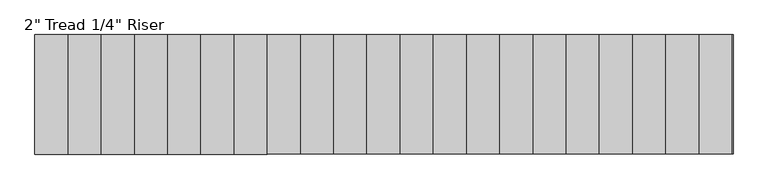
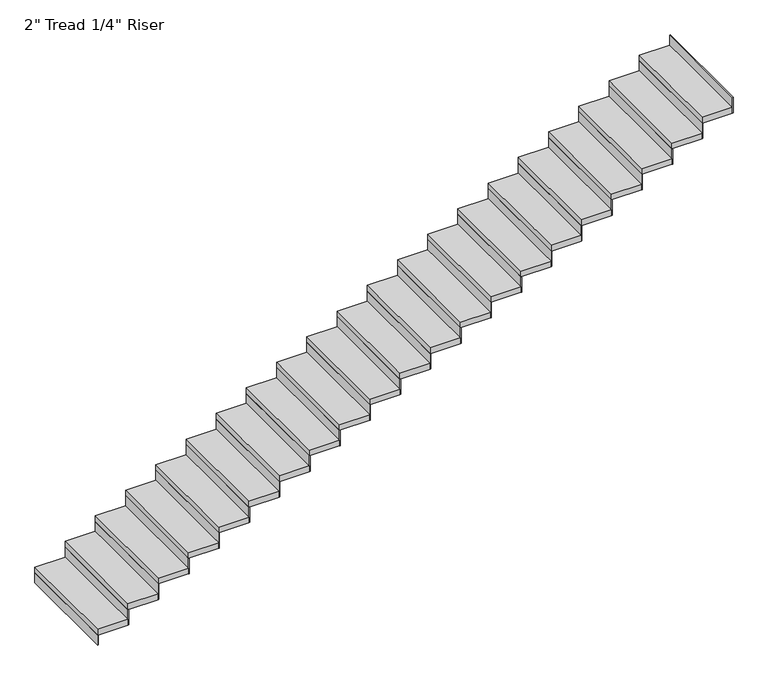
"""IFC4 building model written with IfcOpenShell, lengths in millimetres: stair flight geometry."""

from ifc_helpers import new_model, si_unit, frame, origin, origin_with_axes, place, context, project, spatial, polyline, outline, extrude, source, transform, mapped, element, save


def stair_flight_4fed3eda(model_context):
    return source(origin(), model_context, "Body", "SweptSolid", [
        extrude(outline(polyline([(-14491.9069957, -35593.481782), (-14498.2569957, -35593.481782), (-14498.2569957, -34679.081782), (-14491.9069957, -34679.081782), (-14491.9069957, -35593.481782)])), origin_with_axes(), (0.0, 0.0, 1.0), 87.7454545),
        extrude(outline(polyline([(-14244.2569957, -34679.081782), (-14244.2569957, -35593.481782), (-14498.2569957, -35593.481782), (-14498.2569957, -34679.081782), (-14244.2569957, -34679.081782)])), frame((0.0, 0.0, 87.7454545), z_axis=(0.0, 0.0, 1.0), x_axis=(1.0, 0.0, 0.0)), (0.0, 0.0, 1.0), 50.8),
        extrude(outline(polyline([(-14237.9069957, -35593.481782), (-14244.2569957, -35593.481782), (-14244.2569957, -34679.081782), (-14237.9069957, -34679.081782), (-14237.9069957, -35593.481782)])), frame((0.0, 0.0, 87.7454545), z_axis=(0.0, 0.0, 1.0), x_axis=(1.0, 0.0, 0.0)), (0.0, 0.0, 1.0), 138.5454545),
        extrude(outline(polyline([(-13990.2569957, -34679.081782), (-13990.2569957, -35593.481782), (-14244.2569957, -35593.481782), (-14244.2569957, -34679.081782), (-13990.2569957, -34679.081782)])), frame((0.0, 0.0, 226.2909091), z_axis=(0.0, 0.0, 1.0), x_axis=(1.0, 0.0, 0.0)), (0.0, 0.0, 1.0), 50.8),
        extrude(outline(polyline([(-13983.9069957, -35593.481782), (-13990.2569957, -35593.481782), (-13990.2569957, -34679.081782), (-13983.9069957, -34679.081782), (-13983.9069957, -35593.481782)])), frame((0.0, 0.0, 226.2909091), z_axis=(0.0, 0.0, 1.0), x_axis=(1.0, 0.0, 0.0)), (0.0, 0.0, 1.0), 138.5454545),
        extrude(outline(polyline([(-13736.2569957, -34679.081782), (-13736.2569957, -35593.481782), (-13990.2569957, -35593.481782), (-13990.2569957, -34679.081782), (-13736.2569957, -34679.081782)])), frame((0.0, 0.0, 364.8363636), z_axis=(0.0, 0.0, 1.0), x_axis=(1.0, 0.0, 0.0)), (0.0, 0.0, 1.0), 50.8),
        extrude(outline(polyline([(-13729.9069957, -35593.481782), (-13736.2569957, -35593.481782), (-13736.2569957, -34679.081782), (-13729.9069957, -34679.081782), (-13729.9069957, -35593.481782)])), frame((0.0, 0.0, 364.8363636), z_axis=(0.0, 0.0, 1.0), x_axis=(1.0, 0.0, 0.0)), (0.0, 0.0, 1.0), 138.5454545),
        extrude(outline(polyline([(-13482.2569957, -34679.081782), (-13482.2569957, -35593.481782), (-13736.2569957, -35593.481782), (-13736.2569957, -34679.081782), (-13482.2569957, -34679.081782)])), frame((0.0, 0.0, 503.3818182), z_axis=(0.0, 0.0, 1.0), x_axis=(1.0, 0.0, 0.0)), (0.0, 0.0, 1.0), 50.8),
        extrude(outline(polyline([(-13475.9069957, -35593.481782), (-13482.2569957, -35593.481782), (-13482.2569957, -34679.081782), (-13475.9069957, -34679.081782), (-13475.9069957, -35593.481782)])), frame((0.0, 0.0, 503.3818182), z_axis=(0.0, 0.0, 1.0), x_axis=(1.0, 0.0, 0.0)), (0.0, 0.0, 1.0), 138.5454545),
        extrude(outline(polyline([(-13228.2569957, -34679.081782), (-13228.2569957, -35593.481782), (-13482.2569957, -35593.481782), (-13482.2569957, -34679.081782), (-13228.2569957, -34679.081782)])), frame((0.0, 0.0, 641.9272727), z_axis=(0.0, 0.0, 1.0), x_axis=(1.0, 0.0, 0.0)), (0.0, 0.0, 1.0), 50.8),
        extrude(outline(polyline([(-13221.9069957, -35593.481782), (-13228.2569957, -35593.481782), (-13228.2569957, -34679.081782), (-13221.9069957, -34679.081782), (-13221.9069957, -35593.481782)])), frame((0.0, 0.0, 641.9272727), z_axis=(0.0, 0.0, 1.0), x_axis=(1.0, 0.0, 0.0)), (0.0, 0.0, 1.0), 138.5454545),
        extrude(outline(polyline([(-12974.2569957, -34679.081782), (-12974.2569957, -35593.481782), (-13228.2569957, -35593.481782), (-13228.2569957, -34679.081782), (-12974.2569957, -34679.081782)])), frame((0.0, 0.0, 780.4727273), z_axis=(0.0, 0.0, 1.0), x_axis=(1.0, 0.0, 0.0)), (0.0, 0.0, 1.0), 50.8),
        extrude(outline(polyline([(-12967.9069957, -35593.481782), (-12974.2569957, -35593.481782), (-12974.2569957, -34679.081782), (-12967.9069957, -34679.081782), (-12967.9069957, -35593.481782)])), frame((0.0, 0.0, 780.4727273), z_axis=(0.0, 0.0, 1.0), x_axis=(1.0, 0.0, 0.0)), (0.0, 0.0, 1.0), 138.5454545),
        extrude(outline(polyline([(-12720.2569957, -34679.081782), (-12720.2569957, -35593.481782), (-12974.2569957, -35593.481782), (-12974.2569957, -34679.081782), (-12720.2569957, -34679.081782)])), frame((0.0, 0.0, 919.0181818), z_axis=(0.0, 0.0, 1.0), x_axis=(1.0, 0.0, 0.0)), (0.0, 0.0, 1.0), 50.8),
        extrude(outline(polyline([(-12713.9069957, -35593.481782), (-12720.2569957, -35593.481782), (-12720.2569957, -34679.081782), (-12713.9069957, -34679.081782), (-12713.9069957, -35593.481782)])), frame((0.0, 0.0, 919.0181818), z_axis=(0.0, 0.0, 1.0), x_axis=(1.0, 0.0, 0.0)), (0.0, 0.0, 1.0), 138.5454545),
        extrude(outline(polyline([(-12466.2569957, -34679.081782), (-12466.2569957, -35593.481782), (-12720.2569957, -35593.481782), (-12720.2569957, -34679.081782), (-12466.2569957, -34679.081782)])), frame((0.0, 0.0, 1057.5636364), z_axis=(0.0, 0.0, 1.0), x_axis=(1.0, 0.0, 0.0)), (0.0, 0.0, 1.0), 50.8),
        extrude(outline(polyline([(-12459.9069957, -35593.481782), (-12466.2569957, -35593.481782), (-12466.2569957, -34679.081782), (-12459.9069957, -34679.081782), (-12459.9069957, -35593.481782)])), frame((0.0, 0.0, 1057.5636364), z_axis=(0.0, 0.0, 1.0), x_axis=(1.0, 0.0, 0.0)), (0.0, 0.0, 1.0), 138.5454545),
        extrude(outline(polyline([(-12212.2569957, -34679.081782), (-12212.2569957, -35593.481782), (-12466.2569957, -35593.481782), (-12466.2569957, -34679.081782), (-12212.2569957, -34679.081782)])), frame((0.0, 0.0, 1196.1090909), z_axis=(0.0, 0.0, 1.0), x_axis=(1.0, 0.0, 0.0)), (0.0, 0.0, 1.0), 50.8),
        extrude(outline(polyline([(-12205.9069957, -35593.481782), (-12212.2569957, -35593.481782), (-12212.2569957, -34679.081782), (-12205.9069957, -34679.081782), (-12205.9069957, -35593.481782)])), frame((0.0, 0.0, 1196.1090909), z_axis=(0.0, 0.0, 1.0), x_axis=(1.0, 0.0, 0.0)), (0.0, 0.0, 1.0), 138.5454545),
        extrude(outline(polyline([(-11958.2569957, -34679.081782), (-11958.2569957, -35593.481782), (-12212.2569957, -35593.481782), (-12212.2569957, -34679.081782), (-11958.2569957, -34679.081782)])), frame((0.0, 0.0, 1334.6545455), z_axis=(0.0, 0.0, 1.0), x_axis=(1.0, 0.0, 0.0)), (0.0, 0.0, 1.0), 50.8),
        extrude(outline(polyline([(-11951.9069957, -35593.481782), (-11958.2569957, -35593.481782), (-11958.2569957, -34679.081782), (-11951.9069957, -34679.081782), (-11951.9069957, -35593.481782)])), frame((0.0, 0.0, 1334.6545455), z_axis=(0.0, 0.0, 1.0), x_axis=(1.0, 0.0, 0.0)), (0.0, 0.0, 1.0), 138.5454545),
        extrude(outline(polyline([(-11704.2569957, -34679.081782), (-11704.2569957, -35593.481782), (-11958.2569957, -35593.481782), (-11958.2569957, -34679.081782), (-11704.2569957, -34679.081782)])), frame((0.0, 0.0, 1473.2), z_axis=(0.0, 0.0, 1.0), x_axis=(1.0, 0.0, 0.0)), (0.0, 0.0, 1.0), 50.8),
        extrude(outline(polyline([(-11697.9069957, -35593.481782), (-11704.2569957, -35593.481782), (-11704.2569957, -34679.081782), (-11697.9069957, -34679.081782), (-11697.9069957, -35593.481782)])), frame((0.0, 0.0, 1473.2), z_axis=(0.0, 0.0, 1.0), x_axis=(1.0, 0.0, 0.0)), (0.0, 0.0, 1.0), 138.5454545),
        extrude(outline(polyline([(-11450.2569957, -34679.081782), (-11450.2569957, -35593.481782), (-11704.2569957, -35593.481782), (-11704.2569957, -34679.081782), (-11450.2569957, -34679.081782)])), frame((0.0, 0.0, 1611.7454545), z_axis=(0.0, 0.0, 1.0), x_axis=(1.0, 0.0, 0.0)), (0.0, 0.0, 1.0), 50.8),
        extrude(outline(polyline([(-11443.9069957, -35593.481782), (-11450.2569957, -35593.481782), (-11450.2569957, -34679.081782), (-11443.9069957, -34679.081782), (-11443.9069957, -35593.481782)])), frame((0.0, 0.0, 1611.7454545), z_axis=(0.0, 0.0, 1.0), x_axis=(1.0, 0.0, 0.0)), (0.0, 0.0, 1.0), 138.5454545),
        extrude(outline(polyline([(-11196.2569957, -34679.081782), (-11196.2569957, -35593.481782), (-11450.2569957, -35593.481782), (-11450.2569957, -34679.081782), (-11196.2569957, -34679.081782)])), frame((0.0, 0.0, 1750.2909091), z_axis=(0.0, 0.0, 1.0), x_axis=(1.0, 0.0, 0.0)), (0.0, 0.0, 1.0), 50.8),
        extrude(outline(polyline([(-11189.9069957, -35593.481782), (-11196.2569957, -35593.481782), (-11196.2569957, -34679.081782), (-11189.9069957, -34679.081782), (-11189.9069957, -35593.481782)])), frame((0.0, 0.0, 1750.2909091), z_axis=(0.0, 0.0, 1.0), x_axis=(1.0, 0.0, 0.0)), (0.0, 0.0, 1.0), 138.5454545),
        extrude(outline(polyline([(-10942.2569957, -34679.081782), (-10942.2569957, -35593.481782), (-11196.2569957, -35593.481782), (-11196.2569957, -34679.081782), (-10942.2569957, -34679.081782)])), frame((0.0, 0.0, 1888.8363636), z_axis=(0.0, 0.0, 1.0), x_axis=(1.0, 0.0, 0.0)), (0.0, 0.0, 1.0), 50.8),
        extrude(outline(polyline([(-10935.9069957, -35593.481782), (-10942.2569957, -35593.481782), (-10942.2569957, -34679.081782), (-10935.9069957, -34679.081782), (-10935.9069957, -35593.481782)])), frame((0.0, 0.0, 1888.8363636), z_axis=(0.0, 0.0, 1.0), x_axis=(1.0, 0.0, 0.0)), (0.0, 0.0, 1.0), 138.5454545),
        extrude(outline(polyline([(-10688.2569957, -34679.081782), (-10688.2569957, -35593.481782), (-10942.2569957, -35593.481782), (-10942.2569957, -34679.081782), (-10688.2569957, -34679.081782)])), frame((0.0, 0.0, 2027.3818182), z_axis=(0.0, 0.0, 1.0), x_axis=(1.0, 0.0, 0.0)), (0.0, 0.0, 1.0), 50.8),
        extrude(outline(polyline([(-10681.9069957, -35593.481782), (-10688.2569957, -35593.481782), (-10688.2569957, -34679.081782), (-10681.9069957, -34679.081782), (-10681.9069957, -35593.481782)])), frame((0.0, 0.0, 2027.3818182), z_axis=(0.0, 0.0, 1.0), x_axis=(1.0, 0.0, 0.0)), (0.0, 0.0, 1.0), 138.5454545),
        extrude(outline(polyline([(-10434.2569957, -34679.081782), (-10434.2569957, -35593.481782), (-10688.2569957, -35593.481782), (-10688.2569957, -34679.081782), (-10434.2569957, -34679.081782)])), frame((0.0, 0.0, 2165.9272727), z_axis=(0.0, 0.0, 1.0), x_axis=(1.0, 0.0, 0.0)), (0.0, 0.0, 1.0), 50.8),
        extrude(outline(polyline([(-10427.9069957, -35593.481782), (-10434.2569957, -35593.481782), (-10434.2569957, -34679.081782), (-10427.9069957, -34679.081782), (-10427.9069957, -35593.481782)])), frame((0.0, 0.0, 2165.9272727), z_axis=(0.0, 0.0, 1.0), x_axis=(1.0, 0.0, 0.0)), (0.0, 0.0, 1.0), 138.5454545),
        extrude(outline(polyline([(-10180.2569957, -34679.081782), (-10180.2569957, -35593.481782), (-10434.2569957, -35593.481782), (-10434.2569957, -34679.081782), (-10180.2569957, -34679.081782)])), frame((0.0, 0.0, 2304.4727273), z_axis=(0.0, 0.0, 1.0), x_axis=(1.0, 0.0, 0.0)), (0.0, 0.0, 1.0), 50.8),
        extrude(outline(polyline([(-10173.9069957, -35593.481782), (-10180.2569957, -35593.481782), (-10180.2569957, -34679.081782), (-10173.9069957, -34679.081782), (-10173.9069957, -35593.481782)])), frame((0.0, 0.0, 2304.4727273), z_axis=(0.0, 0.0, 1.0), x_axis=(1.0, 0.0, 0.0)), (0.0, 0.0, 1.0), 138.5454545),
        extrude(outline(polyline([(-9926.2569957, -34679.081782), (-9926.2569957, -35593.481782), (-10180.2569957, -35593.481782), (-10180.2569957, -34679.081782), (-9926.2569957, -34679.081782)])), frame((0.0, 0.0, 2443.0181818), z_axis=(0.0, 0.0, 1.0), x_axis=(1.0, 0.0, 0.0)), (0.0, 0.0, 1.0), 50.8),
        extrude(outline(polyline([(-9919.9069957, -35593.481782), (-9926.2569957, -35593.481782), (-9926.2569957, -34679.081782), (-9919.9069957, -34679.081782), (-9919.9069957, -35593.481782)])), frame((0.0, 0.0, 2443.0181818), z_axis=(0.0, 0.0, 1.0), x_axis=(1.0, 0.0, 0.0)), (0.0, 0.0, 1.0), 138.5454545),
        extrude(outline(polyline([(-9672.2569957, -34679.081782), (-9672.2569957, -35593.481782), (-9926.2569957, -35593.481782), (-9926.2569957, -34679.081782), (-9672.2569957, -34679.081782)])), frame((0.0, 0.0, 2581.5636364), z_axis=(0.0, 0.0, 1.0), x_axis=(1.0, 0.0, 0.0)), (0.0, 0.0, 1.0), 50.8),
        extrude(outline(polyline([(-9665.9069957, -35593.481782), (-9672.2569957, -35593.481782), (-9672.2569957, -34679.081782), (-9665.9069957, -34679.081782), (-9665.9069957, -35593.481782)])), frame((0.0, 0.0, 2581.5636364), z_axis=(0.0, 0.0, 1.0), x_axis=(1.0, 0.0, 0.0)), (0.0, 0.0, 1.0), 138.5454545),
        extrude(outline(polyline([(-9418.2569957, -34679.081782), (-9418.2569957, -35593.481782), (-9672.2569957, -35593.481782), (-9672.2569957, -34679.081782), (-9418.2569957, -34679.081782)])), frame((0.0, 0.0, 2720.1090909), z_axis=(0.0, 0.0, 1.0), x_axis=(1.0, 0.0, 0.0)), (0.0, 0.0, 1.0), 50.8),
        extrude(outline(polyline([(-9411.9069957, -35593.481782), (-9418.2569957, -35593.481782), (-9418.2569957, -34679.081782), (-9411.9069957, -34679.081782), (-9411.9069957, -35593.481782)])), frame((0.0, 0.0, 2720.1090909), z_axis=(0.0, 0.0, 1.0), x_axis=(1.0, 0.0, 0.0)), (0.0, 0.0, 1.0), 138.5454545),
        extrude(outline(polyline([(-9157.9069957, -35593.481782), (-9164.2569957, -35593.481782), (-9164.2569957, -34679.081782), (-9157.9069957, -34679.081782), (-9157.9069957, -35593.481782)])), frame((0.0, 0.0, 2858.6545455), z_axis=(0.0, 0.0, 1.0), x_axis=(1.0, 0.0, 0.0)), (0.0, 0.0, 1.0), 138.5454545),
        extrude(outline(polyline([(-9164.2569957, -34679.081782), (-9164.2569957, -35593.481782), (-9418.2569957, -35593.481782), (-9418.2569957, -34679.081782), (-9164.2569957, -34679.081782)])), frame((0.0, 0.0, 2858.6545455), z_axis=(0.0, 0.0, 1.0), x_axis=(1.0, 0.0, 0.0)), (0.0, 0.0, 1.0), 50.8),
    ])


if __name__ == "__main__":
    model = new_model("IFC4")
    model_context = context("Model", 3, world=origin())
    ifc_project = project(units=[si_unit("LENGTHUNIT", "METRE", prefix="MILLI")], contexts=[model_context])
    site = spatial("IfcSite", under=ifc_project)
    building = spatial("IfcBuilding", under=site)
    placement = place(None, origin())
    stair_flight_shape = stair_flight_4fed3eda(model_context)
    element("IfcStairFlight", 1, ObjectType="2\" Tread 1/4\" Riser", at=placement, inside=building, context=model_context, shape_type="MappedRepresentation", body=[
        mapped(stair_flight_shape, transform((0.0, 0.0, 0.0), x_axis=(1.0, 0.0, 0.0), y_axis=(0.0, 1.0, 0.0), z_axis=(0.0, 0.0, 1.0))),
    ])
    save(model, "model.ifc")
